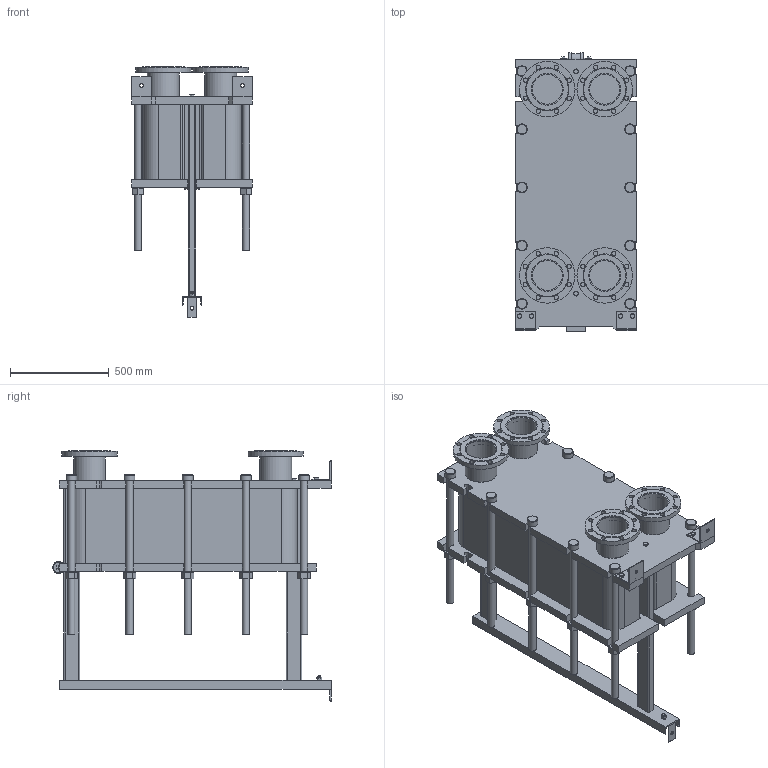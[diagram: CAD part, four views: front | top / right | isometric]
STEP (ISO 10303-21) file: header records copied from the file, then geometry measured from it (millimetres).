
FILE_DESCRIPTION(/* description */ (''),/* implementation_level */ '2;1');
FILE_NAME(/* name */ 'C:\Users\zhuro\Desktop\ENCO\TO\ЭН-041\ЭН-0,5-041-110-1.stp',/* time_stamp */ '2022-06-06T10:58:53+03:00',/* author */ ('zhuro'),/* organization */ (''),/* preprocessor_version */ 'ST-DEVELOPER v18.1',/* originating_system */ 'Autodesk Inventor 2022',/* authorisation */ '');
FILE_SCHEMA (('AUTOMOTIVE_DESIGN { 1 0 10303 214 3 1 1 }'));
Length unit declared in the file: millimetre
Products named in the file (1): ЭН-0,5-041-110-1
Bounding box: 610 x 1406.5 x 1265 mm (x, y, z)
Volume: 294620824.8 mm3; surface area: 9245002.9 mm2
Topology: 52 solids, 52 shells, 711 faces, 1696 edges, 1094 vertices
Faces by surface type: plane 487, cylinder 177, cone 41, torus 6
Full cylindrical faces by diameter (mm): 8 x4, 10 x2, 16 x8, 18 x3, 22 x32, 36 x24, 50 x1, 54 x10, 60 x12, 151 x4, 161 x8, 280 x4
Entity records: 22667 total; most frequent: CARTESIAN_POINT 5230, DIRECTION 3644, ORIENTED_EDGE 3392, EDGE_CURVE 1696, AXIS2_PLACEMENT_3D 1272, LINE 1100, VECTOR 1100, VERTEX_POINT 1094
